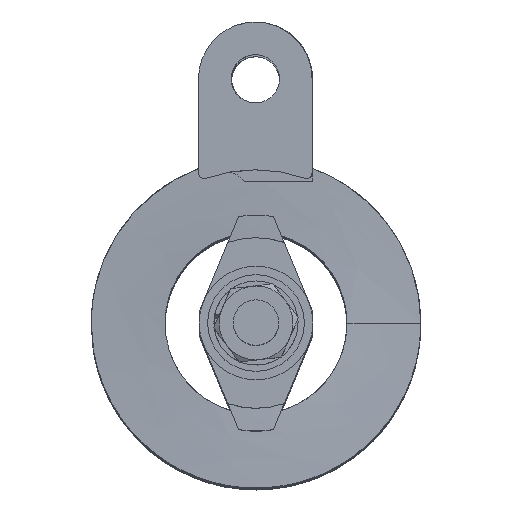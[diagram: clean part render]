
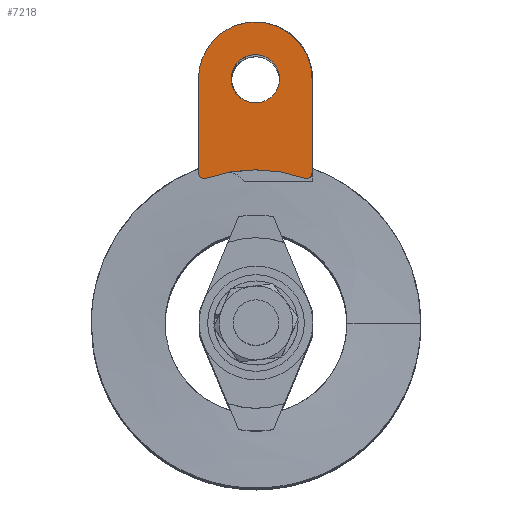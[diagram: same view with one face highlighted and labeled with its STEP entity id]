
A CAD part, top view. The second image highlights one B-rep face of the part: STEP entity #7218.
In plain terms, the highlighted planar face has unit normal (-0.036, 0, 0.999) as drawn and (0.036, -0.999, 0) by its records, which use the part's own axes.
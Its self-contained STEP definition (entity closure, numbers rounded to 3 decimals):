
#131=FACE_BOUND('',#2603,.T.);
#1229=LINE('',#19184,#1642);
#1234=LINE('',#20903,#1647);
#1642=VECTOR('',#8977,10.);
#1647=VECTOR('',#8984,10.);
#2213=FACE_OUTER_BOUND('',#2602,.T.);
#2602=EDGE_LOOP('',(#6637,#6638,#6639,#6640,#6641,#6642));
#2603=EDGE_LOOP('',(#6643));
#2679=CIRCLE('',#7812,1.);
#2682=CIRCLE('',#7817,26.);
#2683=CIRCLE('',#7819,1.);
#2684=CIRCLE('',#7821,10.);
#2685=CIRCLE('',#7823,4.25);
#3387=VERTEX_POINT('',#18910);
#3389=VERTEX_POINT('',#18954);
#3393=VERTEX_POINT('',#18991);
#3394=VERTEX_POINT('',#19011);
#3398=VERTEX_POINT('',#19044);
#3399=VERTEX_POINT('',#19053);
#3400=VERTEX_POINT('',#19057);
#4459=EDGE_CURVE('',#3387,#3389,#2679,.T.);
#4465=EDGE_CURVE('',#3389,#3393,#2682,.T.);
#4467=EDGE_CURVE('',#3393,#3394,#2683,.T.);
#4472=EDGE_CURVE('',#3399,#3398,#2684,.T.);
#4474=EDGE_CURVE('',#3400,#3400,#2685,.T.);
#4480=EDGE_CURVE('',#3394,#3399,#1229,.T.);
#4489=EDGE_CURVE('',#3387,#3398,#1234,.T.);
#6637=ORIENTED_EDGE('',*,*,#4467,.T.);
#6638=ORIENTED_EDGE('',*,*,#4480,.T.);
#6639=ORIENTED_EDGE('',*,*,#4472,.T.);
#6640=ORIENTED_EDGE('',*,*,#4489,.F.);
#6641=ORIENTED_EDGE('',*,*,#4459,.T.);
#6642=ORIENTED_EDGE('',*,*,#4465,.T.);
#6643=ORIENTED_EDGE('',*,*,#4474,.T.);
#6725=PLANE('',#7825);
#7218=ADVANCED_FACE('',(#2213,#131),#6725,.T.);
#7812=AXIS2_PLACEMENT_3D('',#18956,#8946,#8947);
#7817=AXIS2_PLACEMENT_3D('',#18993,#8957,#8958);
#7819=AXIS2_PLACEMENT_3D('',#19012,#8961,#8962);
#7821=AXIS2_PLACEMENT_3D('',#19054,#8966,#8967);
#7823=AXIS2_PLACEMENT_3D('',#19058,#8971,#8972);
#7825=AXIS2_PLACEMENT_3D('',#20902,#8982,#8983);
#8946=DIRECTION('center_axis',(0.036,-0.999,0.));
#8947=DIRECTION('ref_axis',(0.999,0.036,0.));
#8957=DIRECTION('center_axis',(-0.036,0.999,0.));
#8958=DIRECTION('ref_axis',(0.333,0.012,0.943));
#8961=DIRECTION('center_axis',(0.036,-0.999,0.));
#8962=DIRECTION('ref_axis',(0.333,0.012,0.943));
#8966=DIRECTION('center_axis',(0.036,-0.999,0.));
#8967=DIRECTION('ref_axis',(-0.999,-0.036,0.));
#8971=DIRECTION('center_axis',(-0.036,0.999,0.));
#8972=DIRECTION('ref_axis',(-0.999,-0.036,0.));
#8977=DIRECTION('',(0.,0.,-1.));
#8982=DIRECTION('center_axis',(0.036,-0.999,0.));
#8983=DIRECTION('ref_axis',(-0.999,-0.036,0.));
#8984=DIRECTION('',(0.,0.,-1.));
#18910=CARTESIAN_POINT('',(10.123,-1.758,-26.456));
#18954=CARTESIAN_POINT('',(8.79,-1.807,-25.513));
#18956=CARTESIAN_POINT('Origin',(9.123,-1.795,-26.456));
#18991=CARTESIAN_POINT('',(-8.532,-2.438,-25.513));
#18993=CARTESIAN_POINT('Origin',(0.129,-2.122,-1.));
#19011=CARTESIAN_POINT('',(-9.864,-2.486,-26.456));
#19012=CARTESIAN_POINT('Origin',(-8.865,-2.45,-26.456));
#19044=CARTESIAN_POINT('',(10.123,-1.758,-43.));
#19053=CARTESIAN_POINT('',(-9.864,-2.486,-43.));
#19054=CARTESIAN_POINT('Origin',(0.129,-2.122,-43.));
#19057=CARTESIAN_POINT('',(4.377,-1.968,-43.));
#19058=CARTESIAN_POINT('Origin',(0.129,-2.122,-43.));
#19184=CARTESIAN_POINT('',(-9.864,-2.486,-25.));
#20902=CARTESIAN_POINT('Origin',(10.123,-1.758,-25.));
#20903=CARTESIAN_POINT('',(10.123,-1.758,-25.));
